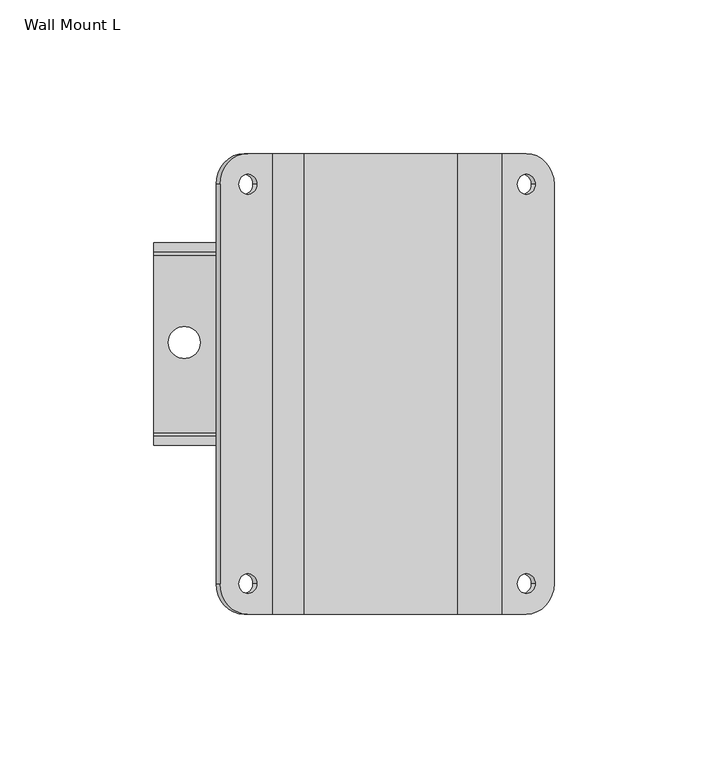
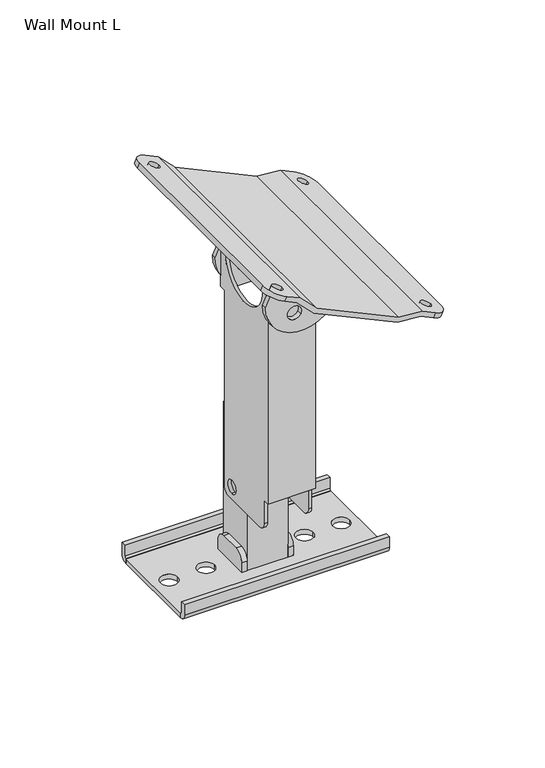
"""IFC4 building model written with IfcOpenShell, lengths in millimetres: proxy geometry, d&b xS-Series Wall Mount L : Wall Mount L."""

from ifc_helpers import new_model, si_unit, point, frame, frame_2d, origin, origin_with_axes, place, context, project, spatial, polyline, circle_curve, trimmed, segment, composite_curve, outline, extrude, source, transform, mapped, element, save
from ifc_brep_helpers import plane_surface, cylinder_surface, revolved_surface, advanced_brep


def wall_mount_l_5b5687d1(model_context):
    return source(origin(), model_context, "Body", "SolidModel", [
        extrude(outline(composite_curve([segment(polyline([(12.5, 0.0), (-12.5, 0.0), (-12.5, 9.0)]), True, "CONTINUOUS"), segment(trimmed(circle_curve(frame_2d((-6.5, 9.0)), 6.0), [point((-12.5, 9.0))], [point((-6.5, 15.0))], False, "CARTESIAN"), True, "CONTINUOUS"), segment(polyline([(-6.5, 15.0), (6.5, 15.0)]), True, "CONTINUOUS"), segment(trimmed(circle_curve(frame_2d((6.5, 9.0)), 6.0), [point((6.5, 15.0))], [point((12.5, 9.0))], False, "CARTESIAN"), True, "CONTINUOUS"), segment(polyline([(12.5, 9.0), (12.5, 0.0)]), True, "CONTINUOUS")], self_intersect=False)), frame((-15.75, 0.0, 0.0), z_axis=(1.0, 0.0, 0.0), x_axis=(0.0, 1.0, 0.0)), (0.0, 0.0, 1.0), 3.25),
        extrude(outline(composite_curve([segment(polyline([(-30.0, 11.0), (-30.0, 4.0)]), True, "CONTINUOUS"), segment(trimmed(circle_curve(frame_2d((-29.0, 4.0)), 1.0), [point((-30.0, 4.0))], [point((-29.0, 3.0))], True, "CARTESIAN"), True, "CONTINUOUS"), segment(polyline([(-29.0, 3.0), (-29.0, 0.0)]), True, "CONTINUOUS"), segment(trimmed(circle_curve(frame_2d((-29.0, 4.0)), 4.0), [point((-29.0, 0.0))], [point((-33.0, 4.0))], False, "CARTESIAN"), True, "CONTINUOUS"), segment(polyline([(-33.0, 4.0), (-33.0, 11.0), (-30.0, 11.0)]), True, "CONTINUOUS")], self_intersect=False)), frame((-62.5, 0.0, 0.0), z_axis=(1.0, 0.0, 0.0), x_axis=(0.0, 1.0, 0.0)), (0.0, 0.0, 1.0), 125.0),
        extrude(outline(composite_curve([segment(polyline([(30.0, 11.0), (33.0, 11.0), (33.0, 4.0)]), True, "CONTINUOUS"), segment(trimmed(circle_curve(frame_2d((29.0, 4.0)), 4.0), [point((33.0, 4.0))], [point((29.0, 0.0))], False, "CARTESIAN"), True, "CONTINUOUS"), segment(polyline([(29.0, 0.0), (29.0, 3.0)]), True, "CONTINUOUS"), segment(trimmed(circle_curve(frame_2d((29.0, 4.0)), 1.0), [point((29.0, 3.0))], [point((30.0, 4.0))], True, "CARTESIAN"), True, "CONTINUOUS"), segment(polyline([(30.0, 4.0), (30.0, 11.0)]), True, "CONTINUOUS")], self_intersect=False)), frame((-62.5, 0.0, 0.0), z_axis=(1.0, 0.0, 0.0), x_axis=(0.0, 1.0, 0.0)), (0.0, 0.0, 1.0), 125.0),
        extrude(outline(polyline([(-62.5, -29.0), (-62.5, 29.0), (62.5, 29.0), (62.5, -29.0), (-62.5, -29.0)]), holes=[composite_curve([segment(trimmed(circle_curve(frame_2d((30.064312, 0.5249221)), 5.2287903), [point((35.2931023, 0.5249221))], [point((24.8355217, 0.5249221))], True, "CARTESIAN"), True, "CONTINUOUS"), segment(trimmed(circle_curve(frame_2d((30.064312, 0.5249221)), 5.2287903), [point((24.8355217, 0.5249221))], [point((35.2931023, 0.5249221))], True, "CARTESIAN"), True, "CONTINUOUS")], self_intersect=False), composite_curve([segment(trimmed(circle_curve(frame_2d((-30.064312, 0.5249221)), 5.2287903), [point((-24.8355217, 0.5249221))], [point((-35.2931023, 0.5249221))], True, "CARTESIAN"), True, "CONTINUOUS"), segment(trimmed(circle_curve(frame_2d((-30.064312, 0.5249221)), 5.2287903), [point((-35.2931023, 0.5249221))], [point((-24.8355217, 0.5249221))], True, "CARTESIAN"), True, "CONTINUOUS")], self_intersect=False), polyline([(-15.75, 12.5), (-15.75, -12.5), (15.75, -12.5), (15.75, 12.5), (-15.75, 12.5)]), composite_curve([segment(trimmed(circle_curve(frame_2d((52.5, 0.5249221)), 5.2287903), [point((57.7287903, 0.5249221))], [point((47.2712097, 0.5249221))], True, "CARTESIAN"), True, "CONTINUOUS"), segment(trimmed(circle_curve(frame_2d((52.5, 0.5249221)), 5.2287903), [point((47.2712097, 0.5249221))], [point((57.7287903, 0.5249221))], True, "CARTESIAN"), True, "CONTINUOUS")], self_intersect=False), composite_curve([segment(trimmed(circle_curve(frame_2d((-52.5, 0.5249221)), 5.2287903), [point((-47.2712097, 0.5249221))], [point((-57.7287903, 0.5249221))], True, "CARTESIAN"), True, "CONTINUOUS"), segment(trimmed(circle_curve(frame_2d((-52.5, 0.5249221)), 5.2287903), [point((-57.7287903, 0.5249221))], [point((-47.2712097, 0.5249221))], True, "CARTESIAN"), True, "CONTINUOUS")], self_intersect=False)]), origin_with_axes(), (0.0, 0.0, 1.0), 3.0),
        extrude(outline(composite_curve([segment(polyline([(12.5, 0.0), (-12.5, 0.0), (-12.5, 9.0)]), True, "CONTINUOUS"), segment(trimmed(circle_curve(frame_2d((-6.5, 9.0)), 6.0), [point((-12.5, 9.0))], [point((-6.5, 15.0))], False, "CARTESIAN"), True, "CONTINUOUS"), segment(polyline([(-6.5, 15.0), (6.5, 15.0)]), True, "CONTINUOUS"), segment(trimmed(circle_curve(frame_2d((6.5, 9.0)), 6.0), [point((6.5, 15.0))], [point((12.5, 9.0))], False, "CARTESIAN"), True, "CONTINUOUS"), segment(polyline([(12.5, 9.0), (12.5, 0.0)]), True, "CONTINUOUS")], self_intersect=False)), frame((12.5, 0.0, 0.0), z_axis=(1.0, 0.0, 0.0), x_axis=(0.0, 1.0, 0.0)), (0.0, 0.0, 1.0), 3.25),
        advanced_brep(
        [(-13.5085984, -88.0, 218.1012608), (-23.845808, -88.0, 228.4384704), (-31.7874323, -88.0, 232.1417106), (-33.0552871, -88.0, 229.4227872), (-25.5930823, -88.0, 225.943104), (-15.2558727, -88.0, 215.6058944), (35.5498946, -88.0, 191.914776), (50.1132869, -88.0, 190.6406443), (57.5754916, -88.0, 187.1609611), (58.8433464, -88.0, 189.8798844), (50.9017221, -88.0, 193.5831247), (36.3383299, -88.0, 194.8572564), (-13.5085984, 62.0, 218.1012608), (36.3383299, 62.0, 194.8572564), (50.9017221, 62.0, 193.5831247), (58.8433464, 62.0, 189.8798844), (57.5754916, 62.0, 187.1609611), (50.1132869, 62.0, 190.6406443), (35.5498946, 62.0, 191.914776), (-15.2558727, 62.0, 215.6058944), (-25.5930823, 62.0, 225.943104), (-33.0552871, 62.0, 229.4227872), (-31.7874323, 62.0, 232.1417106), (-23.845808, 62.0, 228.4384704), (67.9064243, -78.0, 185.6537018), (67.9064243, 52.0, 185.6537018), (61.7567177, -78.0, 188.5213571), (55.9299751, -78.0, 191.2384118), (61.7567177, 52.0, 188.5213571), (55.9299751, 52.0, 191.2384118), (66.6385695, -78.0, 182.9347785), (66.6385695, 52.0, 182.9347785), (54.6621203, 52.0, 188.5194884), (60.4888629, 52.0, 185.8024337), (54.6621203, -78.0, 188.5194884), (60.4888629, -78.0, 185.8024337), (-42.118365, -78.0, 233.6489699), (-42.118365, 52.0, 233.6489699), (-35.9686584, 52.0, 230.7813146), (-30.1419158, 52.0, 228.0642599), (-35.9686584, -78.0, 230.7813146), (-30.1419158, -78.0, 228.0642599), (-40.8505102, -78.0, 236.3678932), (-40.8505102, 52.0, 236.3678932), (-28.874061, -78.0, 230.7831833), (-34.7008036, -78.0, 233.5002379), (-28.874061, 52.0, 230.7831833), (-34.7008036, 52.0, 233.5002379)],
        [
            (0, 1),
            (1, 2),
            (2, 3),
            (3, 4),
            (4, 5),
            (5, 6),
            (6, 7),
            (7, 8),
            (8, 9),
            (9, 10),
            (10, 11),
            (11, 0),
            (12, 13),
            (13, 14),
            (14, 15),
            (15, 16),
            (16, 17),
            (17, 18),
            (18, 19),
            (19, 20),
            (20, 21),
            (21, 22),
            (22, 23),
            (23, 12),
            (11, 13),
            (12, 0),
            (10, 14),
            (9, 24, circle_curve(frame((58.8433464, -78.0, 189.8798844), z_axis=(0.4226182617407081, 0.0, 0.9063077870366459), x_axis=(0.9063077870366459, 0.0, -0.4226182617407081)), 10.0)),
            (24, 25),
            (25, 15, circle_curve(frame((58.8433464, 52.0, 189.8798844), z_axis=(0.4226182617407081, 0.0, 0.9063077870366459), x_axis=(0.9063077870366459, 0.0, -0.4226182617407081)), 10.0)),
            (26, 27, circle_curve(frame((58.8433464, -78.0, 189.8798844), z_axis=(-0.4226182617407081, 0.0, -0.9063077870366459), x_axis=(0.9063077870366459, 0.0, -0.4226182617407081)), 3.2145495)),
            (27, 26, circle_curve(frame((58.8433464, -78.0, 189.8798844), z_axis=(-0.4226182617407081, 0.0, -0.9063077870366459), x_axis=(0.9063077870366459, 0.0, -0.4226182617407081)), 3.2145495)),
            (28, 29, circle_curve(frame((58.8433464, 52.0, 189.8798844), z_axis=(-0.4226182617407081, 0.0, -0.9063077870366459), x_axis=(0.9063077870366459, 0.0, -0.4226182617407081)), 3.2145495)),
            (29, 28, circle_curve(frame((58.8433464, 52.0, 189.8798844), z_axis=(-0.4226182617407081, 0.0, -0.9063077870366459), x_axis=(0.9063077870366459, 0.0, -0.4226182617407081)), 3.2145495)),
            (24, 30),
            (30, 31),
            (31, 25),
            (7, 17),
            (16, 31, circle_curve(frame((57.5754916, 52.0, 187.1609611), z_axis=(-0.4226182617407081, 0.0, -0.9063077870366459), x_axis=(0.9063077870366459, 0.0, -0.4226182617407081)), 10.0)),
            (30, 8, circle_curve(frame((57.5754916, -78.0, 187.1609611), z_axis=(-0.4226182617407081, 0.0, -0.9063077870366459), x_axis=(0.9063077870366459, 0.0, -0.4226182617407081)), 10.0)),
            (32, 33, circle_curve(frame((57.5754916, 52.0, 187.1609611), z_axis=(0.4226182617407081, 0.0, 0.9063077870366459), x_axis=(0.9063077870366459, 0.0, -0.4226182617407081)), 3.2145495)),
            (33, 32, circle_curve(frame((57.5754916, 52.0, 187.1609611), z_axis=(0.4226182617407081, 0.0, 0.9063077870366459), x_axis=(0.9063077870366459, 0.0, -0.4226182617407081)), 3.2145495)),
            (34, 35, circle_curve(frame((57.5754916, -78.0, 187.1609611), z_axis=(0.4226182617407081, 0.0, 0.9063077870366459), x_axis=(0.9063077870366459, 0.0, -0.4226182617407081)), 3.2145495)),
            (35, 34, circle_curve(frame((57.5754916, -78.0, 187.1609611), z_axis=(0.4226182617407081, 0.0, 0.9063077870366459), x_axis=(0.9063077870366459, 0.0, -0.4226182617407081)), 3.2145495)),
            (6, 18),
            (5, 19),
            (4, 20),
            (3, 36, circle_curve(frame((-33.0552871, -78.0, 229.4227872), z_axis=(-0.4226182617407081, 0.0, -0.9063077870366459), x_axis=(0.9063077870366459, 0.0, -0.4226182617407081)), 10.0)),
            (36, 37),
            (37, 21, circle_curve(frame((-33.0552871, 52.0, 229.4227872), z_axis=(-0.4226182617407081, 0.0, -0.9063077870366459), x_axis=(0.9063077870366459, 0.0, -0.4226182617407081)), 10.0)),
            (38, 39, circle_curve(frame((-33.0552871, 52.0, 229.4227872), z_axis=(0.4226182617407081, 0.0, 0.9063077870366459), x_axis=(0.9063077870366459, 0.0, -0.4226182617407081)), 3.2145495)),
            (39, 38, circle_curve(frame((-33.0552871, 52.0, 229.4227872), z_axis=(0.4226182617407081, 0.0, 0.9063077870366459), x_axis=(0.9063077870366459, 0.0, -0.4226182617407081)), 3.2145495)),
            (40, 41, circle_curve(frame((-33.0552871, -78.0, 229.4227872), z_axis=(0.4226182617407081, 0.0, 0.9063077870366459), x_axis=(0.9063077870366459, 0.0, -0.4226182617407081)), 3.2145495)),
            (41, 40, circle_curve(frame((-33.0552871, -78.0, 229.4227872), z_axis=(0.4226182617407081, 0.0, 0.9063077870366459), x_axis=(0.9063077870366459, 0.0, -0.4226182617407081)), 3.2145495)),
            (36, 42),
            (42, 43),
            (43, 37),
            (1, 23),
            (22, 43, circle_curve(frame((-31.7874323, 52.0, 232.1417106), z_axis=(0.4226182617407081, 0.0, 0.9063077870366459), x_axis=(0.9063077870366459, 0.0, -0.4226182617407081)), 10.0)),
            (42, 2, circle_curve(frame((-31.7874323, -78.0, 232.1417106), z_axis=(0.4226182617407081, 0.0, 0.9063077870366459), x_axis=(0.9063077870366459, 0.0, -0.4226182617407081)), 10.0)),
            (44, 45, circle_curve(frame((-31.7874323, -78.0, 232.1417106), z_axis=(-0.4226182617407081, 0.0, -0.9063077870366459), x_axis=(0.9063077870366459, 0.0, -0.4226182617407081)), 3.2145495)),
            (45, 44, circle_curve(frame((-31.7874323, -78.0, 232.1417106), z_axis=(-0.4226182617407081, 0.0, -0.9063077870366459), x_axis=(0.9063077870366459, 0.0, -0.4226182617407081)), 3.2145495)),
            (46, 47, circle_curve(frame((-31.7874323, 52.0, 232.1417106), z_axis=(-0.4226182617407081, 0.0, -0.9063077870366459), x_axis=(0.9063077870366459, 0.0, -0.4226182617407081)), 3.2145495)),
            (47, 46, circle_curve(frame((-31.7874323, 52.0, 232.1417106), z_axis=(-0.4226182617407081, 0.0, -0.9063077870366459), x_axis=(0.9063077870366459, 0.0, -0.4226182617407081)), 3.2145495)),
            (38, 47),
            (46, 39),
            (32, 29),
            (28, 33),
            (40, 45),
            (44, 41),
            (34, 27),
            (26, 35),
        ],
        [
            plane_surface(frame((36.3383299, -88.0, 194.8572564), z_axis=(0.0, -1.0, 0.0), x_axis=(-0.9063077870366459, 0.0, 0.4226182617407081))),
            plane_surface(frame((36.3383299, 62.0, 194.8572564), z_axis=(0.0, 1.0, 0.0), x_axis=(0.9063077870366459, 0.0, -0.4226182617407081))),
            plane_surface(frame((-13.5085984, 62.0, 218.1012608), z_axis=(0.4226182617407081, 0.0, 0.9063077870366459), x_axis=(0.0, -1.0, 0.0))),
            plane_surface(frame((36.3383299, 62.0, 194.8572564), z_axis=(0.0871557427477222, 0.0, 0.99619469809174), x_axis=(0.0, -1.0, 0.0))),
            plane_surface(frame((50.9017221, 62.0, 193.5831247), z_axis=(0.4226182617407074, 0.0, 0.9063077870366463), x_axis=(0.0, -1.0, 0.0))),
            plane_surface(frame((67.9064243, 62.0, 185.6537018), z_axis=(0.9063077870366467, 0.0, -0.42261826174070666), x_axis=(0.0, -1.0, 0.0))),
            plane_surface(frame((66.6385695, 62.0, 182.9347785), z_axis=(-0.4226182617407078, 0.0, -0.906307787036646), x_axis=(0.0, -1.0, 0.0))),
            plane_surface(frame((50.1132869, 62.0, 190.6406443), z_axis=(-0.08715574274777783, 0.0, -0.9961946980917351), x_axis=(0.0, -1.0, 0.0))),
            plane_surface(frame((35.5498946, 62.0, 191.914776), z_axis=(-0.42261826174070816, 0.0, -0.9063077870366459), x_axis=(0.0, -1.0, 0.0))),
            plane_surface(frame((-15.2558727, 62.0, 215.6058944), z_axis=(-0.7071067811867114, 0.0, -0.7071067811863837), x_axis=(0.0, -1.0, 0.0))),
            plane_surface(frame((-25.5930823, 62.0, 225.943104), z_axis=(-0.4226182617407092, 0.0, -0.9063077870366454), x_axis=(0.0, -1.0, 0.0))),
            plane_surface(frame((-42.118365, 62.0, 233.6489699), z_axis=(-0.9063077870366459, 0.0, 0.4226182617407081), x_axis=(0.0, -1.0, 0.0))),
            plane_surface(frame((-40.8505102, 62.0, 236.3678932), z_axis=(0.4226182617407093, 0.0, 0.9063077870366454), x_axis=(0.0, -1.0, 0.0))),
            plane_surface(frame((-23.845808, 62.0, 228.4384704), z_axis=(0.7071067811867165, 0.0, 0.7071067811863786), x_axis=(0.0, -1.0, 0.0))),
            cylinder_surface(frame((-33.9005236, 52.0, 227.6101717), z_axis=(-0.4226182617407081, 0.0, -0.9063077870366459), x_axis=(0.9063077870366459, 0.0, -0.4226182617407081)), 10.0),
            cylinder_surface(frame((-31.7874323, -78.0, 232.1417106), z_axis=(-0.4226182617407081, 0.0, -0.9063077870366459), x_axis=(0.9063077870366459, 0.0, -0.4226182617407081)), 10.0),
            cylinder_surface(frame((58.8433464, 52.0, 189.8798844), z_axis=(-0.4226182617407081, 0.0, -0.9063077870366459), x_axis=(0.9063077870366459, 0.0, -0.4226182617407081)), 10.0),
            cylinder_surface(frame((58.8433464, -78.0, 189.8798844), z_axis=(-0.4226182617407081, 0.0, -0.9063077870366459), x_axis=(0.9063077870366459, 0.0, -0.4226182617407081)), 10.0),
            revolved_surface(polyline([(-28.874061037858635, 52.0, 230.78318331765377), (-30.141915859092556, 52.0, 228.06425987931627)]), (-31.7874323, 52.0, 232.1417106), (0.4226182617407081, 0.0, 0.9063077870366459)),
            revolved_surface(polyline([(61.756717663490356, 52.0, 188.5213571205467), (60.488862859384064, 52.0, 185.8024337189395)]), (58.8433464, 52.0, 189.8798844), (0.4226182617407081, 0.0, 0.9063077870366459)),
            revolved_surface(polyline([(-28.874061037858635, -78.0, 230.78318331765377), (-30.141915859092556, -78.0, 228.06425987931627)]), (-31.7874323, -78.0, 232.1417106), (0.4226182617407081, 0.0, 0.9063077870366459)),
            revolved_surface(polyline([(61.756717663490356, -78.0, 188.5213571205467), (60.488862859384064, -78.0, 185.8024337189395)]), (58.8433464, -78.0, 189.8798844), (0.4226182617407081, 0.0, 0.9063077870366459)),
        ],
        [
            (0, [[1, 2, 3, 4, 5, 6, 7, 8, 9, 10, 11, 12]]),
            (1, [[13, 14, 15, 16, 17, 18, 19, 20, 21, 22, 23, 24]]),
            (2, [[-12, 25, -13, 26]]),
            (3, [[-11, 27, -14, -25]]),
            (4, [[-27, -10, 28, 29, 30, -15], [31, 32], [33, 34]]),
            (5, [[-29, 35, 36, 37]]),
            (6, [[38, -17, 39, -36, 40, -8], [41, 42], [43, 44]]),
            (7, [[-7, 45, -18, -38]]),
            (8, [[-6, 46, -19, -45]]),
            (9, [[-5, 47, -20, -46]]),
            (10, [[-47, -4, 48, 49, 50, -21], [51, 52], [53, 54]]),
            (11, [[-49, 55, 56, 57]]),
            (12, [[58, -23, 59, -56, 60, -2], [61, 62], [63, 64]]),
            (13, [[-1, -26, -24, -58]]),
            (14, [[-22, -50, -57, -59]]),
            (15, [[-3, -60, -55, -48]]),
            (16, [[-16, -30, -37, -39]]),
            (17, [[-9, -40, -35, -28]]),
            (18, [[65, -63, 66, -51]]),
            (18, [[-65, -52, -66, -64]]),
            (19, [[67, -33, 68, -41]]),
            (19, [[-67, -42, -68, -34]]),
            (20, [[69, -61, 70, -53]]),
            (20, [[-69, -54, -70, -62]]),
            (21, [[71, -31, 72, -43]]),
            (21, [[-71, -44, -72, -32]]),
        ],
    ),
        extrude(outline(composite_curve([segment(polyline([(195.30797, 28.2731667), (212.2127005, -7.9791448), (191.2179434, -17.7691608)]), True, "CONTINUOUS"), segment(trimmed(circle_curve(frame_2d((191.0862848, 4.2370042)), 22.0065588), [point((191.2179434, -17.7691608))], [point((174.3132129, 18.4831507))], False, "CARTESIAN"), True, "CONTINUOUS"), segment(polyline([(174.3132129, 18.4831507), (195.30797, 28.2731667)]), True, "CONTINUOUS")], self_intersect=False), holes=[composite_curve([segment(trimmed(circle_curve(frame_2d((182.0, 0.0)), 4.2329785), [point((180.211066, 3.8363813))], [point((183.788934, -3.8363813))], True, "CARTESIAN"), True, "CONTINUOUS"), segment(trimmed(circle_curve(frame_2d((182.0, 0.0)), 4.2329785), [point((183.788934, -3.8363813))], [point((180.211066, 3.8363813))], True, "CARTESIAN"), True, "CONTINUOUS")], self_intersect=False)]), frame((0.0, -41.0, 0.0), z_axis=(0.0, 1.0, 0.0), x_axis=(0.0, 0.0, 1.0)), (0.0, 0.0, 1.0), 3.0),
        extrude(outline(composite_curve([segment(polyline([(195.30797, 28.2731667), (212.2127005, -7.9791448), (191.2179434, -17.7691608)]), True, "CONTINUOUS"), segment(trimmed(circle_curve(frame_2d((191.0862848, 4.2370042)), 22.0065588), [point((191.2179434, -17.7691608))], [point((174.3132129, 18.4831507))], False, "CARTESIAN"), True, "CONTINUOUS"), segment(polyline([(174.3132129, 18.4831507), (195.30797, 28.2731667)]), True, "CONTINUOUS")], self_intersect=False), holes=[composite_curve([segment(trimmed(circle_curve(frame_2d((182.0, 0.0)), 4.2329785), [point((180.211066, 3.8363813))], [point((183.788934, -3.8363813))], True, "CARTESIAN"), True, "CONTINUOUS"), segment(trimmed(circle_curve(frame_2d((182.0, 0.0)), 4.2329785), [point((183.788934, -3.8363813))], [point((180.211066, 3.8363813))], True, "CARTESIAN"), True, "CONTINUOUS")], self_intersect=False)]), frame((0.0, 12.0, 0.0), z_axis=(0.0, 1.0, 0.0), x_axis=(0.0, 0.0, 1.0)), (0.0, 0.0, 1.0), 3.0),
        advanced_brep(
        [(-12.5, -29.0, 42.0), (-12.5, 3.0, 42.0), (-12.5, 8.0, 47.0), (-12.5, 8.0, 172.0), (-12.5, 8.0, 197.0), (-12.5, 7.0, 197.0), (-12.5, -33.0, 197.0), (-12.5, -34.0, 197.0), (-12.5, -34.0, 62.0), (-12.5, -34.0, 47.0), (-12.5, 0.0, 45.7640032), (-12.5, 0.0, 54.2359968), (-14.5, -29.0, 42.0), (-14.5, -34.0, 47.0), (-14.5, -34.0, 62.0), (-14.5, -38.0, 62.0), (-14.5, -38.0, 197.0), (-14.5, -33.0, 197.0), (-14.5, 7.0, 197.0), (-14.5, 12.0, 197.0), (-14.5, 12.0, 172.0), (-14.5, 8.0, 172.0), (-14.5, 8.0, 47.0), (-14.5, 3.0, 42.0), (-14.5, 0.0, 45.7640032), (-14.5, 0.0, 54.2359968), (12.5, 8.0, 197.0), (12.5, 7.0, 197.0), (14.5, 7.0, 197.0), (14.5, 12.0, 197.0), (14.5, -38.0, 197.0), (14.5, -33.0, 197.0), (12.5, -33.0, 197.0), (12.5, -34.0, 197.0), (14.5, -38.0, 62.0), (14.5, -34.0, 62.0), (14.5, -34.0, 47.0), (14.5, -29.0, 42.0), (14.5, 3.0, 42.0), (14.5, 8.0, 47.0), (14.5, 8.0, 172.0), (14.5, 12.0, 172.0), (14.5, 0.0, 45.7640032), (14.5, 0.0, 54.2359968), (12.5, -34.0, 62.0), (12.5, 8.0, 172.0), (12.5, -29.0, 42.0), (12.5, -34.0, 47.0), (12.5, 8.0, 47.0), (12.5, 3.0, 42.0), (12.5, 0.0, 45.7640032), (12.5, 0.0, 54.2359968)],
        [
            (0, 1),
            (1, 2, circle_curve(frame((-12.5, 3.0, 47.0), z_axis=(1.0, 0.0, 0.0), x_axis=(0.0, 0.0, 1.0)), 5.0)),
            (2, 3),
            (3, 4),
            (4, 5),
            (5, 6, circle_curve(frame((-12.5, -13.0, 197.0), z_axis=(-1.0, 0.0, 0.0), x_axis=(0.0, 0.0, 1.0)), 20.0)),
            (6, 7),
            (7, 8),
            (8, 9),
            (9, 0, circle_curve(frame((-12.5, -29.0, 47.0), z_axis=(1.0, 0.0, 0.0), x_axis=(0.0, 0.0, 1.0)), 5.0)),
            (10, 11, circle_curve(frame((-12.5, 0.0, 50.0), z_axis=(-1.0, 0.0, 0.0), x_axis=(0.0, 0.0, 1.0)), 4.2359968)),
            (11, 10, circle_curve(frame((-12.5, 0.0, 50.0), z_axis=(-1.0, 0.0, 0.0), x_axis=(0.0, 0.0, 1.0)), 4.2359968)),
            (12, 13, circle_curve(frame((-14.5, -29.0, 47.0), z_axis=(-1.0, 0.0, 0.0), x_axis=(0.0, 0.0, 1.0)), 5.0)),
            (13, 14),
            (14, 15),
            (15, 16),
            (16, 17),
            (17, 18, circle_curve(frame((-14.5, -13.0, 197.0), z_axis=(1.0, 0.0, 0.0), x_axis=(0.0, 0.0, 1.0)), 20.0)),
            (18, 19),
            (19, 20),
            (20, 21),
            (21, 22),
            (22, 23, circle_curve(frame((-14.5, 3.0, 47.0), z_axis=(-1.0, 0.0, 0.0), x_axis=(0.0, 0.0, 1.0)), 5.0)),
            (23, 12),
            (24, 25, circle_curve(frame((-14.5, 0.0, 50.0), z_axis=(1.0, 0.0, 0.0), x_axis=(0.0, 0.0, 1.0)), 4.2359968)),
            (25, 24, circle_curve(frame((-14.5, 0.0, 50.0), z_axis=(1.0, 0.0, 0.0), x_axis=(0.0, 0.0, 1.0)), 4.2359968)),
            (0, 12),
            (23, 1),
            (22, 2),
            (21, 3),
            (4, 26),
            (26, 27),
            (27, 28),
            (28, 29),
            (29, 19),
            (18, 5),
            (17, 6),
            (16, 30),
            (30, 31),
            (31, 32),
            (32, 33),
            (33, 7),
            (13, 9),
            (8, 14),
            (10, 24),
            (25, 11),
            (30, 34),
            (34, 35),
            (35, 36),
            (36, 37, circle_curve(frame((14.5, -29.0, 47.0), z_axis=(1.0, 0.0, 0.0), x_axis=(0.0, 0.0, 1.0)), 5.0)),
            (37, 38),
            (38, 39, circle_curve(frame((14.5, 3.0, 47.0), z_axis=(1.0, 0.0, 0.0), x_axis=(0.0, 0.0, 1.0)), 5.0)),
            (39, 40),
            (40, 41),
            (41, 29),
            (28, 31, circle_curve(frame((14.5, -13.0, 197.0), z_axis=(-1.0, 0.0, 0.0), x_axis=(0.0, 0.0, 1.0)), 20.0)),
            (42, 43, circle_curve(frame((14.5, 0.0, 50.0), z_axis=(-1.0, 0.0, 0.0), x_axis=(0.0, 0.0, 1.0)), 4.2359968)),
            (43, 42, circle_curve(frame((14.5, 0.0, 50.0), z_axis=(-1.0, 0.0, 0.0), x_axis=(0.0, 0.0, 1.0)), 4.2359968)),
            (15, 34),
            (33, 44),
            (44, 8),
            (3, 45),
            (45, 26),
            (41, 20),
            (46, 47, circle_curve(frame((12.5, -29.0, 47.0), z_axis=(-1.0, 0.0, 0.0), x_axis=(0.0, 0.0, 1.0)), 5.0)),
            (47, 44),
            (32, 27, circle_curve(frame((12.5, -13.0, 197.0), z_axis=(1.0, 0.0, 0.0), x_axis=(0.0, 0.0, 1.0)), 20.0)),
            (45, 48),
            (48, 49, circle_curve(frame((12.5, 3.0, 47.0), z_axis=(-1.0, 0.0, 0.0), x_axis=(0.0, 0.0, 1.0)), 5.0)),
            (49, 46),
            (50, 51, circle_curve(frame((12.5, 0.0, 50.0), z_axis=(1.0, 0.0, 0.0), x_axis=(0.0, 0.0, 1.0)), 4.2359968)),
            (51, 50, circle_curve(frame((12.5, 0.0, 50.0), z_axis=(1.0, 0.0, 0.0), x_axis=(0.0, 0.0, 1.0)), 4.2359968)),
            (49, 38),
            (37, 46),
            (48, 39),
            (45, 40),
            (47, 36),
            (35, 44),
            (51, 43),
            (42, 50),
        ],
        [
            plane_surface(frame((-12.5, 3.0, 42.0), z_axis=(1.0, 0.0, 0.0), x_axis=(0.0, 1.0, 0.0))),
            plane_surface(frame((-14.5, 3.0, 42.0), z_axis=(-1.0, 0.0, 0.0), x_axis=(0.0, -1.0, 0.0))),
            plane_surface(frame((-12.5, -29.0, 42.0), z_axis=(0.0, 0.0, -1.0), x_axis=(-1.0, 0.0, 0.0))),
            cylinder_surface(frame((-14.5, 3.0, 47.0), z_axis=(1.0, 0.0, 0.0), x_axis=(0.0, 0.0, 1.0)), 5.0),
            plane_surface(frame((-12.5, 8.0, 47.0), z_axis=(0.0, 1.0, 0.0), x_axis=(-1.0, 0.0, 0.0))),
            plane_surface(frame((-12.5, 8.0, 197.0), z_axis=(0.0, 0.0, 1.0), x_axis=(-1.0, 0.0, 0.0))),
            revolved_surface(polyline([(-14.5, -13.0, 217.0), (-12.5, -13.0, 217.0)]), (-14.5, -13.0, 197.0), (-1.0, 0.0, 0.0)),
            plane_surface(frame((-12.5, -33.0, 197.0), z_axis=(0.0, 0.0, 1.0), x_axis=(-1.0, 0.0, 0.0))),
            plane_surface(frame((-12.5, -34.0, 197.0), z_axis=(0.0, -1.0, 0.0), x_axis=(-1.0, 0.0, 0.0))),
            cylinder_surface(frame((-14.5, -29.0, 47.0), z_axis=(1.0, 0.0, 0.0), x_axis=(0.0, 0.0, 1.0)), 5.0),
            revolved_surface(polyline([(-14.5, 0.0, 54.2359968), (-12.5, 0.0, 54.2359968)]), (0.0, 0.0, 50.0), (-1.0, 0.0, 0.0)),
            plane_surface(frame((14.5, -38.0, 197.0), z_axis=(1.0, 0.0, 0.0), x_axis=(0.0, 0.0, -1.0))),
            plane_surface(frame((14.5, -38.0, 197.0), z_axis=(0.0, -1.0, 0.0), x_axis=(-1.0, 0.0, 0.0))),
            plane_surface(frame((14.5, -34.0, 62.0), z_axis=(0.0, 1.0, 0.0), x_axis=(-1.0, 0.0, 0.0))),
            plane_surface(frame((14.5, 8.0, 197.0), z_axis=(0.0, -1.0, 0.0), x_axis=(-1.0, 0.0, 0.0))),
            plane_surface(frame((14.5, 12.0, 172.0), z_axis=(0.0, 1.0, 0.0), x_axis=(-1.0, 0.0, 0.0))),
            plane_surface(frame((12.5, 3.0, 42.0), z_axis=(-1.0, 0.0, 0.0), x_axis=(0.0, -1.0, 0.0))),
            plane_surface(frame((14.5, -29.0, 42.0), z_axis=(0.0, 0.0, -1.0), x_axis=(-1.0, 0.0, 0.0))),
            cylinder_surface(frame((12.5, 3.0, 47.0), z_axis=(1.0, 0.0, 0.0), x_axis=(0.0, 0.0, 1.0)), 5.0),
            plane_surface(frame((14.5, 8.0, 47.0), z_axis=(0.0, 1.0, 0.0), x_axis=(-1.0, 0.0, 0.0))),
            revolved_surface(polyline([(12.5, -13.0, 217.0), (14.5, -13.0, 217.0)]), (12.5, -13.0, 197.0), (-1.0, 0.0, 0.0)),
            plane_surface(frame((14.5, -34.0, 197.0), z_axis=(0.0, -1.0, 0.0), x_axis=(-1.0, 0.0, 0.0))),
            cylinder_surface(frame((12.5, -29.0, 47.0), z_axis=(1.0, 0.0, 0.0), x_axis=(0.0, 0.0, 1.0)), 5.0),
            revolved_surface(polyline([(12.5, 0.0, 54.2359968), (14.5, 0.0, 54.2359968)]), (0.0, 0.0, 50.0), (-1.0, 0.0, 0.0)),
            plane_surface(frame((14.5, -38.0, 62.0), z_axis=(0.0, 0.0, -1.0), x_axis=(-1.0, 0.0, 0.0))),
            plane_surface(frame((14.5, 8.0, 172.0), z_axis=(0.0, 0.0, -1.0), x_axis=(-1.0, 0.0, 0.0))),
        ],
        [
            (0, [[1, 2, 3, 4, 5, 6, 7, 8, 9, 10], [11, 12]]),
            (1, [[13, 14, 15, 16, 17, 18, 19, 20, 21, 22, 23, 24], [25, 26]]),
            (2, [[-1, 27, -24, 28]]),
            (3, [[-2, -28, -23, 29]]),
            (4, [[-29, -22, 30, -3]]),
            (5, [[-5, 31, 32, 33, 34, 35, -19, 36]]),
            (6, [[-6, -36, -18, 37]]),
            (7, [[-7, -37, -17, 38, 39, 40, 41, 42]]),
            (8, [[43, -9, 44, -14]]),
            (9, [[-10, -43, -13, -27]]),
            (10, [[-11, 45, -26, 46]]),
            (10, [[-12, -46, -25, -45]]),
            (11, [[-39, 47, 48, 49, 50, 51, 52, 53, 54, 55, -34, 56], [57, 58]]),
            (12, [[-47, -38, -16, 59]]),
            (13, [[-8, -42, 60, 61]]),
            (14, [[-4, 62, 63, -31]]),
            (15, [[-55, 64, -20, -35]]),
            (16, [[65, 66, -60, -41, 67, -32, -63, 68, 69, 70], [71, 72]]),
            (17, [[-70, 73, -51, 74]]),
            (18, [[-69, 75, -52, -73]]),
            (19, [[-75, -68, 76, -53]]),
            (20, [[-67, -40, -56, -33]]),
            (21, [[77, -49, 78, -66]]),
            (22, [[-65, -74, -50, -77]]),
            (23, [[-72, 79, -57, 80]]),
            (23, [[-71, -80, -58, -79]]),
            (24, [[-48, -59, -15, -44, -61, -78]]),
            (25, [[-54, -76, -62, -30, -21, -64]]),
        ],
    ),
        extrude(outline(polyline([(12.5, 12.5), (12.5, -12.5), (-12.5, -12.5), (-12.5, 12.5), (12.5, 12.5)]), holes=[polyline([(10.5, 10.5), (-10.5, 10.5), (-10.5, -10.5), (10.5, -10.5), (10.5, 10.5)])]), origin_with_axes(), (0.0, 0.0, 1.0), 97.0),
    ])


if __name__ == "__main__":
    model = new_model("IFC4")
    model_context = context("Model", 3, world=origin())
    ifc_project = project(units=[si_unit("LENGTHUNIT", "METRE", prefix="MILLI")], contexts=[model_context])
    site = spatial("IfcSite", under=ifc_project)
    building = spatial("IfcBuilding", under=site)
    placement = place(None, origin())
    wall_mount_l_shape = wall_mount_l_5b5687d1(model_context)
    element("IfcBuildingElementProxy", 1, Name="d&b xS-Series Wall Mount L : Wall Mount L", ObjectType="d&b xS-Series Wall Mount L : Wall Mount L", at=placement, inside=building, context=model_context, shape_type="MappedRepresentation", body=[
        mapped(wall_mount_l_shape, transform((0.0, 0.0, 0.0), x_axis=(1.0, 0.0, 0.0), y_axis=(0.0, 1.0, 0.0), z_axis=(0.0, 0.0, 1.0))),
    ])
    save(model, "model.ifc")
